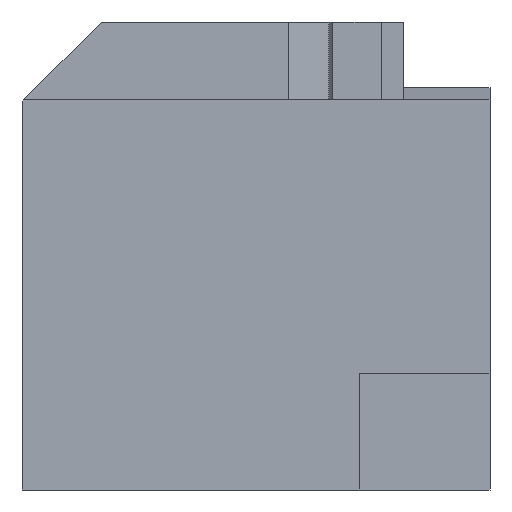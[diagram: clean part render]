
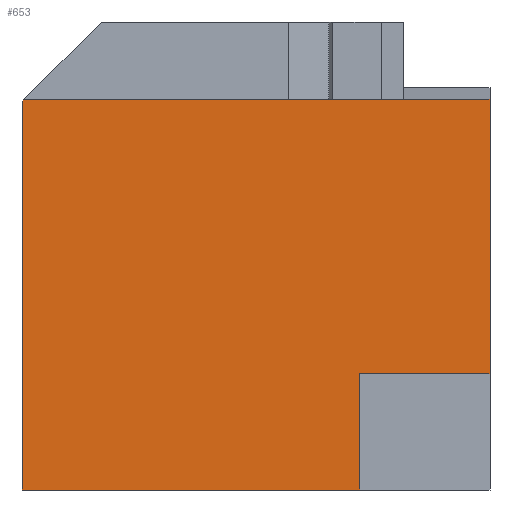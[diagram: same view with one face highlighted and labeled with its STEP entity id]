
A CAD part, left-side view. The second image highlights one B-rep face of the part: STEP entity #653.
In plain terms, the highlighted planar face has unit normal (-1, 0, 0).
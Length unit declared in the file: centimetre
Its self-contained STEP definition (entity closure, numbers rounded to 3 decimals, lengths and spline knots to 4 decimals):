
#16 = FACE_OUTER_BOUND ( 'NONE', #132, .T. ) ;
#17 = DIRECTION ( 'NONE',  ( 0., -1., 0. ) ) ;
#76 = CARTESIAN_POINT ( 'NONE',  ( 0., 0., 248.6141 ) ) ;
#91 = AXIS2_PLACEMENT_3D ( 'NONE', #280, #707, #773 ) ;
#112 = ORIENTED_EDGE ( 'NONE', *, *, #359, .F. ) ;
#124 = LINE ( 'NONE', #560, #488 ) ;
#132 = EDGE_LOOP ( 'NONE', ( #112, #601, #608, #617, #225, #478, #717 ) ) ;
#136 = EDGE_CURVE ( 'NONE', #425, #284, #331, .T. ) ;
#137 = LINE ( 'NONE', #627, #420 ) ;
#158 = DIRECTION ( 'NONE',  ( 0., 0.707, -0.707 ) ) ;
#162 = DIRECTION ( 'NONE',  ( 0., 0., -1. ) ) ;
#168 = PLANE ( 'NONE',  #91 ) ;
#169 = EDGE_CURVE ( 'NONE', #172, #432, #137, .T. ) ;
#170 = CARTESIAN_POINT ( 'NONE',  ( 0., 0., 834.8677 ) ) ;
#172 = VERTEX_POINT ( 'NONE', #769 ) ;
#178 = CARTESIAN_POINT ( 'NONE',  ( 0., 0., 1000. ) ) ;
#203 = VECTOR ( 'NONE', #17, 100. ) ;
#224 = LINE ( 'NONE', #711, #482 ) ;
#225 = ORIENTED_EDGE ( 'NONE', *, *, #136, .T. ) ;
#227 = VECTOR ( 'NONE', #518, 100. ) ;
#260 = EDGE_CURVE ( 'NONE', #303, #284, #224, .T. ) ;
#280 = CARTESIAN_POINT ( 'NONE',  ( 0., 1000., 1000. ) ) ;
#284 = VERTEX_POINT ( 'NONE', #295 ) ;
#295 = CARTESIAN_POINT ( 'NONE',  ( 0., 277.971, 0. ) ) ;
#303 = VERTEX_POINT ( 'NONE', #587 ) ;
#317 = CARTESIAN_POINT ( 'NONE',  ( 0., 1000., 830.9004 ) ) ;
#318 = DIRECTION ( 'NONE',  ( 0., 0., -1. ) ) ;
#320 = VERTEX_POINT ( 'NONE', #170 ) ;
#331 = LINE ( 'NONE', #762, #203 ) ;
#359 = EDGE_CURVE ( 'NONE', #320, #659, #408, .T. ) ;
#364 = CARTESIAN_POINT ( 'NONE',  ( 0., 1000., 0. ) ) ;
#408 = LINE ( 'NONE', #178, #604 ) ;
#420 = VECTOR ( 'NONE', #158, 100. ) ;
#424 = VECTOR ( 'NONE', #591, 100. ) ;
#425 = VERTEX_POINT ( 'NONE', #364 ) ;
#432 = VERTEX_POINT ( 'NONE', #317 ) ;
#466 = CARTESIAN_POINT ( 'NONE',  ( 0., 0., 248.6141 ) ) ;
#478 = ORIENTED_EDGE ( 'NONE', *, *, #260, .F. ) ;
#482 = VECTOR ( 'NONE', #538, 100. ) ;
#488 = VECTOR ( 'NONE', #318, 100. ) ;
#504 = LINE ( 'NONE', #750, #227 ) ;
#518 = DIRECTION ( 'NONE',  ( 0., -1., 0. ) ) ;
#538 = DIRECTION ( 'NONE',  ( 0., 0., -1. ) ) ;
#548 = EDGE_CURVE ( 'NONE', #432, #425, #124, .T. ) ;
#553 = EDGE_CURVE ( 'NONE', #172, #320, #504, .T. ) ;
#560 = CARTESIAN_POINT ( 'NONE',  ( 0., 1000., 1000. ) ) ;
#585 = LINE ( 'NONE', #76, #424 ) ;
#587 = CARTESIAN_POINT ( 'NONE',  ( 0., 277.971, 248.6141 ) ) ;
#591 = DIRECTION ( 'NONE',  ( 0., 1., 0. ) ) ;
#601 = ORIENTED_EDGE ( 'NONE', *, *, #553, .F. ) ;
#604 = VECTOR ( 'NONE', #162, 100. ) ;
#608 = ORIENTED_EDGE ( 'NONE', *, *, #169, .T. ) ;
#617 = ORIENTED_EDGE ( 'NONE', *, *, #548, .T. ) ;
#627 = CARTESIAN_POINT ( 'NONE',  ( 0., 830.9004, 1000. ) ) ;
#641 = EDGE_CURVE ( 'NONE', #659, #303, #585, .T. ) ;
#653 = ADVANCED_FACE ( 'NONE', ( #16 ), #168, .F. ) ;
#659 = VERTEX_POINT ( 'NONE', #466 ) ;
#707 = DIRECTION ( 'NONE',  ( 1., 0., 0. ) ) ;
#711 = CARTESIAN_POINT ( 'NONE',  ( 0., 277.971, 0. ) ) ;
#717 = ORIENTED_EDGE ( 'NONE', *, *, #641, .F. ) ;
#750 = CARTESIAN_POINT ( 'NONE',  ( 0., 1000., 834.8677 ) ) ;
#762 = CARTESIAN_POINT ( 'NONE',  ( 0., 1000., 0. ) ) ;
#769 = CARTESIAN_POINT ( 'NONE',  ( 0., 996.0327, 834.8677 ) ) ;
#773 = DIRECTION ( 'NONE',  ( 0., 0., -1. ) ) ;
